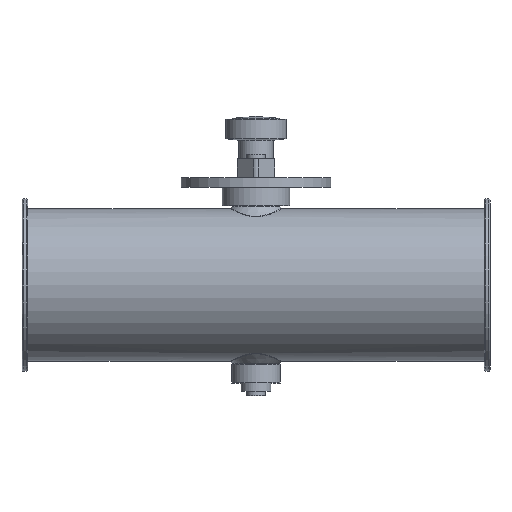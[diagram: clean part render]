
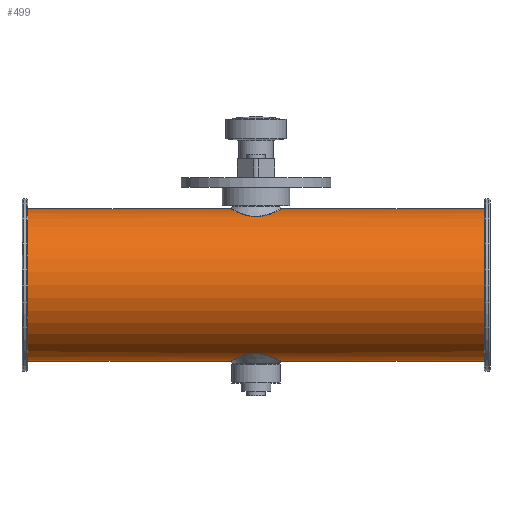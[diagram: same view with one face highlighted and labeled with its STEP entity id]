
A CAD part, top view. The second image highlights one B-rep face of the part: STEP entity #499.
In plain terms, the highlighted cylindrical face has radius 40.8 mm (diameter 81.6 mm), a full revolution.
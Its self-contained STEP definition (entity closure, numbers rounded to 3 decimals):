
#113=B_SPLINE_CURVE_WITH_KNOTS('',3,(#2267,#2268,#2269,#2270,#2271,#2272,
#2273,#2274,#2275,#2276,#2277,#2278,#2279,#2280,#2281,#2282,#2283,#2284,
#2285,#2286,#2287,#2288,#2289,#2290,#2291,#2292,#2293,#2294),.UNSPECIFIED.,
 .T.,.F.,(2,2,2,2,2,2,2,2,2,2,2,2,2,2,2,2),(-0.063,0.,0.125,
0.25,0.313,0.375,0.438,
0.5,0.563,0.625,0.75,0.813,0.875,
0.938,1.,1.125),.UNSPECIFIED.);
#114=B_SPLINE_CURVE_WITH_KNOTS('',3,(#2296,#2297,#2298,#2299,#2300,#2301,
#2302,#2303,#2304,#2305,#2306,#2307,#2308,#2309,#2310,#2311,#2312,#2313,
#2314,#2315,#2316,#2317,#2318,#2319,#2320,#2321,#2322,#2323,#2324,#2325),
 .UNSPECIFIED.,.T.,.F.,(2,2,2,2,2,2,2,2,2,2,2,2,2,2,2,2,2),(-0.063,
0.,0.062,0.125,0.188,0.25,0.375,0.438,0.5,0.563,
0.625,0.688,0.75,0.875,0.938,1.,1.063),.UNSPECIFIED.);
#276=CYLINDRICAL_SURFACE('',#1540,40.8);
#355=FACE_BOUND('',#715,.T.);
#356=FACE_BOUND('',#716,.T.);
#357=FACE_BOUND('',#717,.T.);
#358=FACE_BOUND('',#718,.T.);
#499=ADVANCED_FACE('',(#355,#356,#357,#358),#276,.T.);
#715=EDGE_LOOP('',(#999));
#716=EDGE_LOOP('',(#1000));
#717=EDGE_LOOP('',(#1001));
#718=EDGE_LOOP('',(#1002));
#999=ORIENTED_EDGE('',*,*,#1301,.T.);
#1000=ORIENTED_EDGE('',*,*,#1302,.T.);
#1001=ORIENTED_EDGE('',*,*,#1303,.T.);
#1002=ORIENTED_EDGE('',*,*,#1304,.F.);
#1159=VERTEX_POINT('',#2266);
#1160=VERTEX_POINT('',#2295);
#1161=VERTEX_POINT('',#2326);
#1162=VERTEX_POINT('',#2328);
#1301=EDGE_CURVE('',#1159,#1159,#1391,.T.);
#1302=EDGE_CURVE('',#1160,#1160,#113,.T.);
#1303=EDGE_CURVE('',#1161,#1161,#114,.T.);
#1304=EDGE_CURVE('',#1162,#1162,#1392,.T.);
#1391=CIRCLE('',#1538,40.8);
#1392=CIRCLE('',#1539,40.8);
#1538=AXIS2_PLACEMENT_3D('',#2265,#1886,#1887);
#1539=AXIS2_PLACEMENT_3D('',#2327,#1888,#1889);
#1540=AXIS2_PLACEMENT_3D('',#2329,#1890,#1891);
#1886=DIRECTION('',(1.,0.,0.));
#1887=DIRECTION('',(0.,0.,1.));
#1888=DIRECTION('',(1.,0.,0.));
#1889=DIRECTION('',(0.,0.,1.));
#1890=DIRECTION('',(1.,0.,0.));
#1891=DIRECTION('',(0.,0.,-1.));
#2265=CARTESIAN_POINT('',(-122.,1.7,125.));
#2266=CARTESIAN_POINT('',(-122.,1.7,165.8));
#2267=CARTESIAN_POINT('',(-5.395,-35.522,108.233));
#2268=CARTESIAN_POINT('',(-10.314,-37.121,112.136));
#2269=CARTESIAN_POINT('',(-12.526,-38.286,115.893));
#2270=CARTESIAN_POINT('',(-14.573,-39.3,124.113));
#2271=CARTESIAN_POINT('',(-14.278,-39.137,128.606));
#2272=CARTESIAN_POINT('',(-11.972,-38.029,134.501));
#2273=CARTESIAN_POINT('',(-10.92,-37.535,136.319));
#2274=CARTESIAN_POINT('',(-8.287,-36.464,139.527));
#2275=CARTESIAN_POINT('',(-6.711,-35.88,140.922));
#2276=CARTESIAN_POINT('',(-2.997,-34.995,142.868));
#2277=CARTESIAN_POINT('',(-0.776,-34.74,143.354));
#2278=CARTESIAN_POINT('',(3.453,-35.035,142.757));
#2279=CARTESIAN_POINT('',(5.401,-35.524,141.764));
#2280=CARTESIAN_POINT('',(8.676,-36.588,139.164));
#2281=CARTESIAN_POINT('',(10.013,-37.153,137.588));
#2282=CARTESIAN_POINT('',(12.212,-38.133,134.022));
#2283=CARTESIAN_POINT('',(13.03,-38.535,132.078));
#2284=CARTESIAN_POINT('',(14.58,-39.303,125.868));
#2285=CARTESIAN_POINT('',(14.29,-39.142,121.43));
#2286=CARTESIAN_POINT('',(11.972,-38.029,115.496));
#2287=CARTESIAN_POINT('',(10.935,-37.541,113.701));
#2288=CARTESIAN_POINT('',(8.286,-36.463,110.47));
#2289=CARTESIAN_POINT('',(6.716,-35.882,109.082));
#2290=CARTESIAN_POINT('',(2.997,-34.995,107.132));
#2291=CARTESIAN_POINT('',(0.781,-34.74,106.646));
#2292=CARTESIAN_POINT('',(-3.455,-35.035,107.243));
#2293=CARTESIAN_POINT('',(-5.395,-35.522,108.233));
#2294=CARTESIAN_POINT('',(-10.314,-37.121,112.136));
#2295=CARTESIAN_POINT('',(-7.035,-36.055,109.534));
#2296=CARTESIAN_POINT('',(-8.677,39.989,110.837));
#2297=CARTESIAN_POINT('',(-5.393,38.921,108.231));
#2298=CARTESIAN_POINT('',(-3.45,38.434,107.241));
#2299=CARTESIAN_POINT('',(0.792,38.14,106.646));
#2300=CARTESIAN_POINT('',(3.004,38.396,107.134));
#2301=CARTESIAN_POINT('',(6.717,39.282,109.083));
#2302=CARTESIAN_POINT('',(8.288,39.864,110.473));
#2303=CARTESIAN_POINT('',(10.931,40.94,113.696));
#2304=CARTESIAN_POINT('',(11.98,41.432,115.513));
#2305=CARTESIAN_POINT('',(14.288,42.542,121.434));
#2306=CARTESIAN_POINT('',(14.582,42.704,125.865));
#2307=CARTESIAN_POINT('',(13.027,41.934,132.088));
#2308=CARTESIAN_POINT('',(12.211,41.533,134.023));
#2309=CARTESIAN_POINT('',(10.01,40.552,137.592));
#2310=CARTESIAN_POINT('',(8.677,39.989,139.161));
#2311=CARTESIAN_POINT('',(5.414,38.928,141.755));
#2312=CARTESIAN_POINT('',(3.469,38.437,142.752));
#2313=CARTESIAN_POINT('',(-0.771,38.14,143.355));
#2314=CARTESIAN_POINT('',(-2.988,38.393,142.871));
#2315=CARTESIAN_POINT('',(-6.705,39.278,140.927));
#2316=CARTESIAN_POINT('',(-8.278,39.86,139.536));
#2317=CARTESIAN_POINT('',(-10.923,40.936,136.316));
#2318=CARTESIAN_POINT('',(-11.974,41.429,134.5));
#2319=CARTESIAN_POINT('',(-14.288,42.542,128.573));
#2320=CARTESIAN_POINT('',(-14.582,42.704,124.14));
#2321=CARTESIAN_POINT('',(-13.03,41.935,117.919));
#2322=CARTESIAN_POINT('',(-12.213,41.533,115.98));
#2323=CARTESIAN_POINT('',(-10.013,40.553,112.411));
#2324=CARTESIAN_POINT('',(-8.677,39.989,110.837));
#2325=CARTESIAN_POINT('',(-5.393,38.921,108.231));
#2326=CARTESIAN_POINT('',(-7.035,39.455,109.534));
#2327=CARTESIAN_POINT('',(122.,1.7,125.));
#2328=CARTESIAN_POINT('',(122.,1.7,165.8));
#2329=CARTESIAN_POINT('',(-125.,1.7,125.));
